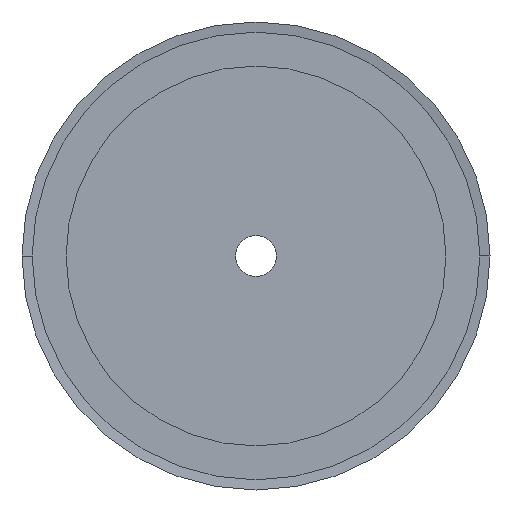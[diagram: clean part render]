
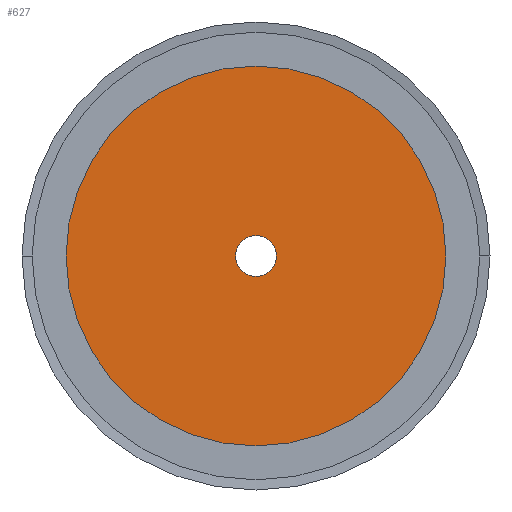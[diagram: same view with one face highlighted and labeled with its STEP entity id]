
A CAD part, left-side view. The second image highlights one B-rep face of the part: STEP entity #627.
In plain terms, the highlighted planar face has unit normal (-1, 0, 0).
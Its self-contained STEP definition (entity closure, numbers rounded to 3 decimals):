
#627 = ADVANCED_FACE( '', ( #1737, #1738 ), #1739, .T. );
#1737 = FACE_BOUND( '', #2848, .T. );
#1738 = FACE_OUTER_BOUND( '', #2849, .T. );
#1739 = PLANE( '', #2850 );
#2848 = EDGE_LOOP( '', ( #7423, #7424 ) );
#2849 = EDGE_LOOP( '', ( #7425, #7426 ) );
#2850 = AXIS2_PLACEMENT_3D( '', #7427, #7428, #7429 );
#7423 = ORIENTED_EDGE( '', *, *, #7557, .T. );
#7424 = ORIENTED_EDGE( '', *, *, #7553, .T. );
#7425 = ORIENTED_EDGE( '', *, *, #7433, .T. );
#7426 = ORIENTED_EDGE( '', *, *, #8889, .T. );
#7427 = CARTESIAN_POINT( '', ( 0., 28., 0. ) );
#7428 = DIRECTION( '', ( -1., 0., 0. ) );
#7429 = DIRECTION( '', ( 0., 1., 0. ) );
#7433 = EDGE_CURVE( '', #8891, #8895, #8897, .T. );
#7553 = EDGE_CURVE( '', #9131, #9128, #9132, .T. );
#7557 = EDGE_CURVE( '', #9128, #9131, #9137, .T. );
#8889 = EDGE_CURVE( '', #8895, #8891, #11261, .T. );
#8891 = VERTEX_POINT( '', #11263 );
#8895 = VERTEX_POINT( '', #11268 );
#8897 = CIRCLE( '', #11271, 56. );
#9128 = VERTEX_POINT( '', #11518 );
#9131 = VERTEX_POINT( '', #11522 );
#9132 = CIRCLE( '', #11523, 6. );
#9137 = CIRCLE( '', #11529, 6. );
#11261 = CIRCLE( '', #14269, 56. );
#11263 = CARTESIAN_POINT( '', ( 0., 56., 0. ) );
#11268 = CARTESIAN_POINT( '', ( 0., -56., 0. ) );
#11271 = AXIS2_PLACEMENT_3D( '', #14275, #14276, #14277 );
#11518 = CARTESIAN_POINT( '', ( 0., 6., 0. ) );
#11522 = CARTESIAN_POINT( '', ( 0., -6., 0. ) );
#11523 = AXIS2_PLACEMENT_3D( '', #14601, #14602, #14603 );
#11529 = AXIS2_PLACEMENT_3D( '', #14611, #14612, #14613 );
#14269 = AXIS2_PLACEMENT_3D( '', #17375, #17376, #17377 );
#14275 = CARTESIAN_POINT( '', ( 0., 0., 0. ) );
#14276 = DIRECTION( '', ( -1., 0., 0. ) );
#14277 = DIRECTION( '', ( 0., 1., 0. ) );
#14601 = CARTESIAN_POINT( '', ( 0., 0., 0. ) );
#14602 = DIRECTION( '', ( 1., 0., 0. ) );
#14603 = DIRECTION( '', ( 0., 1., 0. ) );
#14611 = CARTESIAN_POINT( '', ( 0., 0., 0. ) );
#14612 = DIRECTION( '', ( 1., 0., 0. ) );
#14613 = DIRECTION( '', ( 0., 1., 0. ) );
#17375 = CARTESIAN_POINT( '', ( 0., 0., 0. ) );
#17376 = DIRECTION( '', ( -1., 0., 0. ) );
#17377 = DIRECTION( '', ( 0., 1., 0. ) );
